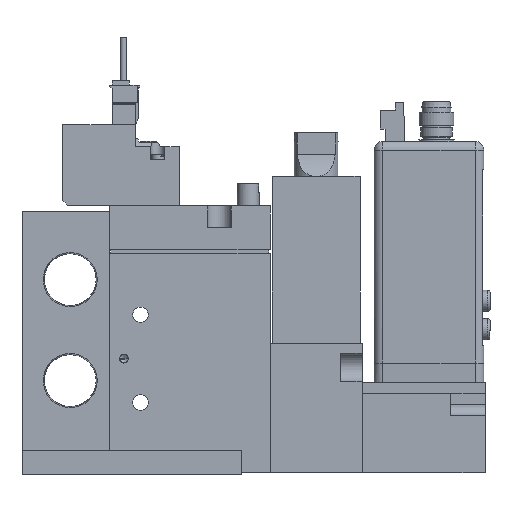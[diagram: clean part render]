
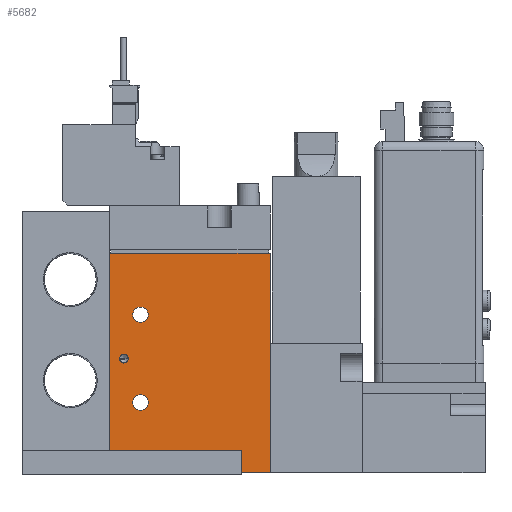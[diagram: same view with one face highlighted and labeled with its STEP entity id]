
A CAD part, left-side view. The second image highlights one B-rep face of the part: STEP entity #5682.
In plain terms, the highlighted planar face has unit normal (-1, 0, 0) as drawn and (1, 0, 0) by its records, which use the part's own axes.
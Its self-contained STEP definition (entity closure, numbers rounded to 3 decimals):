
#5682=ADVANCED_FACE('',(#11983,#11984,#11985,#11986),#11987,.F.);
#11983=FACE_BOUND('',#20710,.T.);
#11984=FACE_BOUND('',#20711,.T.);
#11985=FACE_BOUND('',#20712,.T.);
#11986=FACE_OUTER_BOUND('',#20713,.T.);
#11987=PLANE('',#20714);
#20710=EDGE_LOOP('',(#39829));
#20711=EDGE_LOOP('',(#39830));
#20712=EDGE_LOOP('',(#39831));
#20713=EDGE_LOOP('',(#39832,#39833,#39834,#39835));
#20714=AXIS2_PLACEMENT_3D('',#39836,#39837,#39838);
#39829=ORIENTED_EDGE('',*,*,#59782,.F.);
#39830=ORIENTED_EDGE('',*,*,#59784,.T.);
#39831=ORIENTED_EDGE('',*,*,#59785,.T.);
#39832=ORIENTED_EDGE('',*,*,#59775,.T.);
#39833=ORIENTED_EDGE('',*,*,#59772,.F.);
#39834=ORIENTED_EDGE('',*,*,#59776,.F.);
#39835=ORIENTED_EDGE('',*,*,#59768,.T.);
#39836=CARTESIAN_POINT('',(8.5,-19.444,50.0));
#39837=DIRECTION('',(-1.0,0.0,0.0));
#39838=DIRECTION('',(0.0,0.0,1.0));
#59768=EDGE_CURVE('',#72292,#72290,#72293,.T.);
#59772=EDGE_CURVE('',#72297,#72295,#72299,.T.);
#59775=EDGE_CURVE('',#72290,#72295,#72304,.T.);
#59776=EDGE_CURVE('',#72292,#72297,#72305,.T.);
#59782=EDGE_CURVE('',#72314,#72314,#72315,.T.);
#59784=EDGE_CURVE('',#72316,#72316,#72317,.T.);
#59785=EDGE_CURVE('',#72318,#72318,#72319,.T.);
#72290=VERTEX_POINT('',#92222);
#72292=VERTEX_POINT('',#92225);
#72293=LINE('',#92226,#92227);
#72295=VERTEX_POINT('',#92230);
#72297=VERTEX_POINT('',#92233);
#72299=LINE('',#92236,#92237);
#72304=LINE('',#92242,#92243);
#72305=LINE('',#92244,#92245);
#72314=VERTEX_POINT('',#92254);
#72315=CIRCLE('',#92255,1.0);
#72316=VERTEX_POINT('',#92256);
#72317=CIRCLE('',#92257,1.75);
#72318=VERTEX_POINT('',#92258);
#72319=CIRCLE('',#92259,1.75);
#92222=CARTESIAN_POINT('',(8.5,-19.444,0.0));
#92225=CARTESIAN_POINT('',(8.5,-19.444,50.0));
#92226=CARTESIAN_POINT('',(8.5,-19.444,50.0));
#92227=VECTOR('',#110387,1.0);
#92230=CARTESIAN_POINT('',(8.5,17.056,0.0));
#92233=CARTESIAN_POINT('',(8.5,17.056,50.0));
#92236=CARTESIAN_POINT('',(8.5,17.056,50.0));
#92237=VECTOR('',#110391,1.0);
#92242=CARTESIAN_POINT('',(8.5,-19.444,0.0));
#92243=VECTOR('',#110398,1.0);
#92244=CARTESIAN_POINT('',(8.5,-19.444,50.0));
#92245=VECTOR('',#110399,1.0);
#92254=CARTESIAN_POINT('',(8.5,-17.244,26.0));
#92255=AXIS2_PLACEMENT_3D('',#110412,#110413,#110414);
#92256=CARTESIAN_POINT('',(8.5,-10.694,36.0));
#92257=AXIS2_PLACEMENT_3D('',#110415,#110416,#110417);
#92258=CARTESIAN_POINT('',(8.5,-10.694,16.0));
#92259=AXIS2_PLACEMENT_3D('',#110418,#110419,#110420);
#110387=DIRECTION('',(0.0,0.0,-1.0));
#110391=DIRECTION('',(0.0,0.0,-1.0));
#110398=DIRECTION('',(0.0,1.0,0.0));
#110399=DIRECTION('',(0.0,1.0,0.0));
#110412=CARTESIAN_POINT('',(8.5,-16.244,26.0));
#110413=DIRECTION('',(1.0,0.,0.0));
#110414=DIRECTION('',(0.,-1.0,0.0));
#110415=CARTESIAN_POINT('',(8.5,-12.444,36.0));
#110416=DIRECTION('',(-1.0,0.0,0.0));
#110417=DIRECTION('',(0.0,1.0,0.0));
#110418=CARTESIAN_POINT('',(8.5,-12.444,16.0));
#110419=DIRECTION('',(-1.0,0.0,0.0));
#110420=DIRECTION('',(0.0,1.0,0.0));
